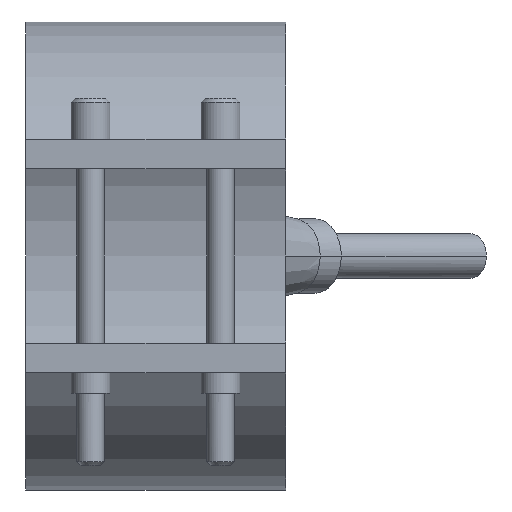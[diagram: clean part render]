
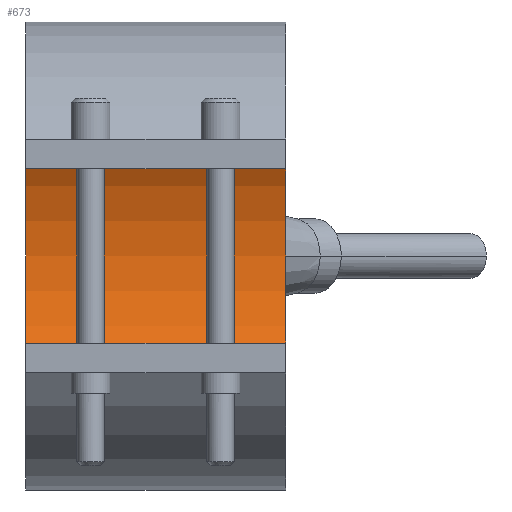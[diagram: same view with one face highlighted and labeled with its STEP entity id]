
A CAD part, front view. The second image highlights one B-rep face of the part: STEP entity #673.
In plain terms, the highlighted cylindrical face has radius 27.5 mm (diameter 55 mm), a partial arc.
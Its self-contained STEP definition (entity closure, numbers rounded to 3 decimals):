
#343=CARTESIAN_POINT('Vertex',(17.5,0.,27.5)) ;
#348=CARTESIAN_POINT('Axis2P3D Location',(17.5,0.,0.)) ;
#352=CARTESIAN_POINT('Vertex',(17.5,0.,-27.5)) ;
#459=CARTESIAN_POINT('Vertex',(-17.5,0.,-27.5)) ;
#462=CARTESIAN_POINT('Axis2P3D Location',(-17.5,0.,0.)) ;
#466=CARTESIAN_POINT('Vertex',(-17.5,0.,27.5)) ;
#645=CARTESIAN_POINT('Line Origine',(17.5,0.,27.5)) ;
#657=CARTESIAN_POINT('Axis2P3D Location',(17.5,0.,0.)) ;
#662=CARTESIAN_POINT('Line Origine',(17.5,0.,-27.5)) ;
#349=DIRECTION('Axis2P3D Direction',(1.,0.,0.)) ;
#463=DIRECTION('Axis2P3D Direction',(1.,0.,0.)) ;
#646=DIRECTION('Vector Direction',(1.,0.,0.)) ;
#658=DIRECTION('Axis2P3D Direction',(1.,0.,-0.)) ;
#659=DIRECTION('Axis2P3D XDirection',(0.,0.,-1.)) ;
#663=DIRECTION('Vector Direction',(1.,0.,0.)) ;
#350=AXIS2_PLACEMENT_3D('Circle Axis2P3D',#348,#349,$) ;
#464=AXIS2_PLACEMENT_3D('Circle Axis2P3D',#462,#463,$) ;
#660=AXIS2_PLACEMENT_3D('Cylinder Axis2P3D',#657,#658,#659) ;
#668=ORIENTED_EDGE('',*,*,#354,.T.) ;
#669=ORIENTED_EDGE('',*,*,#649,.T.) ;
#670=ORIENTED_EDGE('',*,*,#468,.F.) ;
#671=ORIENTED_EDGE('',*,*,#666,.T.) ;
#647=VECTOR('Line Direction',#646,1.) ;
#664=VECTOR('Line Direction',#663,1.) ;
#673=ADVANCED_FACE('29055035',(#672),#661,.F.) ;
#351=CIRCLE('generated circle',#350,27.5) ;
#465=CIRCLE('generated circle',#464,27.5) ;
#661=CYLINDRICAL_SURFACE('generated cylinder',#660,27.5) ;
#354=EDGE_CURVE('',#353,#344,#351,.T.) ;
#468=EDGE_CURVE('',#460,#467,#465,.T.) ;
#649=EDGE_CURVE('',#344,#467,#648,.F.) ;
#666=EDGE_CURVE('',#460,#353,#665,.T.) ;
#667=EDGE_LOOP('',(#668,#669,#670,#671)) ;
#672=FACE_OUTER_BOUND('',#667,.T.) ;
#648=LINE('Line',#645,#647) ;
#665=LINE('Line',#662,#664) ;
#344=VERTEX_POINT('',#343) ;
#353=VERTEX_POINT('',#352) ;
#460=VERTEX_POINT('',#459) ;
#467=VERTEX_POINT('',#466) ;
